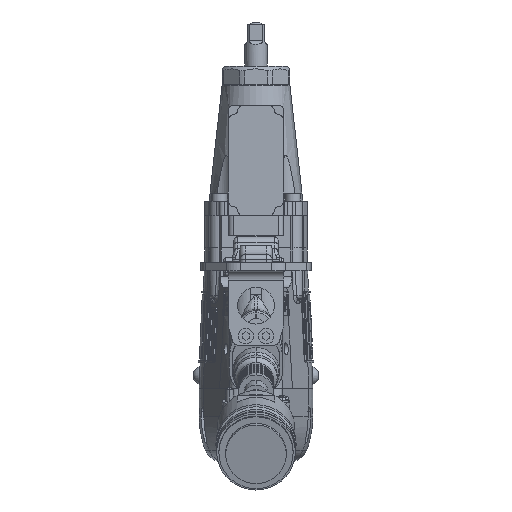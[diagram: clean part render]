
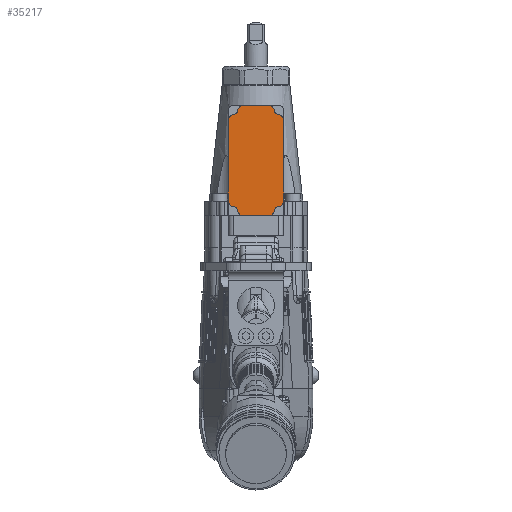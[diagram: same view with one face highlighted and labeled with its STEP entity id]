
A CAD part, front view. The second image highlights one B-rep face of the part: STEP entity #35217.
In plain terms, the highlighted planar face has unit normal (0, -1, 0).
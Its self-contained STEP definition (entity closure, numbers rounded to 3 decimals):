
#32300 = EDGE_LOOP ( 'NONE', ( #38063, #39475, #39418, #36424, #36278, #36152, #40690, #40745, #41193, #41208, #40416, #38423, #43613, #43628, #42598, #42507 ) ) ;
#35217 = ADVANCED_FACE ( 'NONE', ( #81259 ), #81258, .F. ) ;
#36152 = ORIENTED_EDGE ( 'NONE', *, *, #36270, .F. ) ;
#36270 = EDGE_CURVE ( 'NONE', #36346, #52724, #84166, .T. ) ;
#36278 = ORIENTED_EDGE ( 'NONE', *, *, #54132, .F. ) ;
#36283 = EDGE_CURVE ( 'NONE', #52803, #36423, #84155, .T. ) ;
#36346 = VERTEX_POINT ( 'NONE', #81343 ) ;
#36423 = VERTEX_POINT ( 'NONE', #81322 ) ;
#36424 = ORIENTED_EDGE ( 'NONE', *, *, #36283, .F. ) ;
#38063 = ORIENTED_EDGE ( 'NONE', *, *, #39524, .F. ) ;
#38423 = ORIENTED_EDGE ( 'NONE', *, *, #39906, .F. ) ;
#38523 = VERTEX_POINT ( 'NONE', #86031 ) ;
#39218 = VERTEX_POINT ( 'NONE', #86053 ) ;
#39228 = VERTEX_POINT ( 'NONE', #86052 ) ;
#39275 = EDGE_CURVE ( 'NONE', #36423, #39218, #86048, .T. ) ;
#39418 = ORIENTED_EDGE ( 'NONE', *, *, #39275, .F. ) ;
#39475 = ORIENTED_EDGE ( 'NONE', *, *, #39478, .F. ) ;
#39478 = EDGE_CURVE ( 'NONE', #39218, #38523, #86041, .T. ) ;
#39524 = EDGE_CURVE ( 'NONE', #38523, #39228, #86150, .T. ) ;
#39906 = EDGE_CURVE ( 'NONE', #40666, #40555, #86188, .T. ) ;
#40373 = VERTEX_POINT ( 'NONE', #86291 ) ;
#40416 = ORIENTED_EDGE ( 'NONE', *, *, #40535, .F. ) ;
#40535 = EDGE_CURVE ( 'NONE', #40555, #40373, #86266, .T. ) ;
#40555 = VERTEX_POINT ( 'NONE', #86258 ) ;
#40666 = VERTEX_POINT ( 'NONE', #86255 ) ;
#40690 = ORIENTED_EDGE ( 'NONE', *, *, #41567, .F. ) ;
#40699 = VERTEX_POINT ( 'NONE', #86253 ) ;
#40745 = ORIENTED_EDGE ( 'NONE', *, *, #41163, .F. ) ;
#41163 = EDGE_CURVE ( 'NONE', #44986, #40699, #86349, .T. ) ;
#41193 = ORIENTED_EDGE ( 'NONE', *, *, #46098, .F. ) ;
#41208 = ORIENTED_EDGE ( 'NONE', *, *, #41211, .F. ) ;
#41211 = EDGE_CURVE ( 'NONE', #40373, #44989, #86340, .T. ) ;
#41567 = EDGE_CURVE ( 'NONE', #40699, #36346, #86325, .T. ) ;
#42073 = VERTEX_POINT ( 'NONE', #86372 ) ;
#42405 = VERTEX_POINT ( 'NONE', #86455 ) ;
#42500 = EDGE_CURVE ( 'NONE', #39228, #42405, #86437, .T. ) ;
#42507 = ORIENTED_EDGE ( 'NONE', *, *, #42500, .F. ) ;
#42598 = ORIENTED_EDGE ( 'NONE', *, *, #42622, .F. ) ;
#42622 = EDGE_CURVE ( 'NONE', #42405, #43274, #86428, .T. ) ;
#43274 = VERTEX_POINT ( 'NONE', #86642 ) ;
#43592 = EDGE_CURVE ( 'NONE', #43274, #42073, #86623, .T. ) ;
#43613 = ORIENTED_EDGE ( 'NONE', *, *, #43911, .F. ) ;
#43628 = ORIENTED_EDGE ( 'NONE', *, *, #43592, .F. ) ;
#43911 = EDGE_CURVE ( 'NONE', #42073, #40666, #86810, .T. ) ;
#44986 = VERTEX_POINT ( 'NONE', #87167 ) ;
#44989 = VERTEX_POINT ( 'NONE', #87166 ) ;
#46098 = EDGE_CURVE ( 'NONE', #44989, #44986, #87265, .T. ) ;
#52724 = VERTEX_POINT ( 'NONE', #89180 ) ;
#52803 = VERTEX_POINT ( 'NONE', #89156 ) ;
#54132 = EDGE_CURVE ( 'NONE', #52724, #52803, #93383, .T. ) ;
#81254 = DIRECTION ( 'NONE',  ( 0., 0., 1. ) ) ;
#81255 = DIRECTION ( 'NONE',  ( 0., 1., 0. ) ) ;
#81256 = CARTESIAN_POINT ( 'NONE',  ( 41.7, -32.6, 12.5 ) ) ;
#81257 = AXIS2_PLACEMENT_3D ( 'NONE', #81256, #81255, #81254 ) ;
#81258 = PLANE ( 'NONE',  #81257 ) ;
#81259 = FACE_OUTER_BOUND ( 'NONE', #32300, .T. ) ;
#81322 = CARTESIAN_POINT ( 'NONE',  ( 44.19, -32.6, -12.273 ) ) ;
#81343 = CARTESIAN_POINT ( 'NONE',  ( 94.21, -32.6, -12.273 ) ) ;
#84150 = DIRECTION ( 'NONE',  ( 0., 0., -1. ) ) ;
#84152 = DIRECTION ( 'NONE',  ( 0., 1., 0. ) ) ;
#84153 = CARTESIAN_POINT ( 'NONE',  ( 47.177, -32.6, -12. ) ) ;
#84154 = AXIS2_PLACEMENT_3D ( 'NONE', #84153, #84152, #84150 ) ;
#84155 = CIRCLE ( 'NONE', #84154, 3. ) ;
#84161 = DIRECTION ( 'NONE',  ( 0., 0., -1. ) ) ;
#84163 = DIRECTION ( 'NONE',  ( 0., 1., 0. ) ) ;
#84164 = CARTESIAN_POINT ( 'NONE',  ( 91.223, -32.6, -12. ) ) ;
#84165 = AXIS2_PLACEMENT_3D ( 'NONE', #84164, #84163, #84161 ) ;
#84166 = CIRCLE ( 'NONE', #84165, 3. ) ;
#86031 = CARTESIAN_POINT ( 'NONE',  ( 39.2, -32.6, -7.023 ) ) ;
#86035 = DIRECTION ( 'NONE',  ( 0., 0., -1. ) ) ;
#86037 = DIRECTION ( 'NONE',  ( 0., 1., 0. ) ) ;
#86038 = CARTESIAN_POINT ( 'NONE',  ( 42.2, -32.6, -7.023 ) ) ;
#86040 = AXIS2_PLACEMENT_3D ( 'NONE', #86038, #86037, #86035 ) ;
#86041 = CIRCLE ( 'NONE', #86040, 3. ) ;
#86043 = DIRECTION ( 'NONE',  ( 0., 0., -1. ) ) ;
#86044 = DIRECTION ( 'NONE',  ( 0., -1., 0. ) ) ;
#86045 = CARTESIAN_POINT ( 'NONE',  ( 41.7, -32.6, -12.5 ) ) ;
#86046 = AXIS2_PLACEMENT_3D ( 'NONE', #86045, #86044, #86043 ) ;
#86048 = CIRCLE ( 'NONE', #86046, 2.5 ) ;
#86052 = CARTESIAN_POINT ( 'NONE',  ( 39.2, -32.6, 7.023 ) ) ;
#86053 = CARTESIAN_POINT ( 'NONE',  ( 41.927, -32.6, -10.01 ) ) ;
#86145 = DIRECTION ( 'NONE',  ( 0., 0., 1. ) ) ;
#86146 = VECTOR ( 'NONE', #86145, 1000. ) ;
#86148 = CARTESIAN_POINT ( 'NONE',  ( 39.2, -32.6, -12.5 ) ) ;
#86150 = LINE ( 'NONE', #86148, #86146 ) ;
#86182 = DIRECTION ( 'NONE',  ( 0., 0., -1. ) ) ;
#86183 = DIRECTION ( 'NONE',  ( 0., 1., 0. ) ) ;
#86185 = CARTESIAN_POINT ( 'NONE',  ( 91.223, -32.6, 12. ) ) ;
#86187 = AXIS2_PLACEMENT_3D ( 'NONE', #86185, #86183, #86182 ) ;
#86188 = CIRCLE ( 'NONE', #86187, 3. ) ;
#86253 = CARTESIAN_POINT ( 'NONE',  ( 96.473, -32.6, -10.01 ) ) ;
#86255 = CARTESIAN_POINT ( 'NONE',  ( 91.223, -32.6, 15. ) ) ;
#86258 = CARTESIAN_POINT ( 'NONE',  ( 94.21, -32.6, 12.273 ) ) ;
#86259 = DIRECTION ( 'NONE',  ( 0., 0., -1. ) ) ;
#86261 = DIRECTION ( 'NONE',  ( 0., -1., 0. ) ) ;
#86263 = CARTESIAN_POINT ( 'NONE',  ( 96.7, -32.6, 12.5 ) ) ;
#86265 = AXIS2_PLACEMENT_3D ( 'NONE', #86263, #86261, #86259 ) ;
#86266 = CIRCLE ( 'NONE', #86265, 2.5 ) ;
#86291 = CARTESIAN_POINT ( 'NONE',  ( 96.473, -32.6, 10.01 ) ) ;
#86321 = DIRECTION ( 'NONE',  ( 0., 0., -1. ) ) ;
#86322 = DIRECTION ( 'NONE',  ( 0., -1., 0. ) ) ;
#86323 = CARTESIAN_POINT ( 'NONE',  ( 96.7, -32.6, -12.5 ) ) ;
#86324 = AXIS2_PLACEMENT_3D ( 'NONE', #86323, #86322, #86321 ) ;
#86325 = CIRCLE ( 'NONE', #86324, 2.5 ) ;
#86333 = DIRECTION ( 'NONE',  ( 0., 0., -1. ) ) ;
#86335 = DIRECTION ( 'NONE',  ( 0., 1., 0. ) ) ;
#86337 = CARTESIAN_POINT ( 'NONE',  ( 96.2, -32.6, 7.023 ) ) ;
#86338 = AXIS2_PLACEMENT_3D ( 'NONE', #86337, #86335, #86333 ) ;
#86340 = CIRCLE ( 'NONE', #86338, 3. ) ;
#86343 = DIRECTION ( 'NONE',  ( 0., 0., -1. ) ) ;
#86344 = DIRECTION ( 'NONE',  ( 0., 1., 0. ) ) ;
#86345 = CARTESIAN_POINT ( 'NONE',  ( 96.2, -32.6, -7.023 ) ) ;
#86347 = AXIS2_PLACEMENT_3D ( 'NONE', #86345, #86344, #86343 ) ;
#86349 = CIRCLE ( 'NONE', #86347, 3. ) ;
#86372 = CARTESIAN_POINT ( 'NONE',  ( 47.177, -32.6, 15. ) ) ;
#86423 = DIRECTION ( 'NONE',  ( 0., 0., -1. ) ) ;
#86424 = DIRECTION ( 'NONE',  ( 0., -1., 0. ) ) ;
#86426 = CARTESIAN_POINT ( 'NONE',  ( 41.7, -32.6, 12.5 ) ) ;
#86427 = AXIS2_PLACEMENT_3D ( 'NONE', #86426, #86424, #86423 ) ;
#86428 = CIRCLE ( 'NONE', #86427, 2.5 ) ;
#86430 = DIRECTION ( 'NONE',  ( 0., 0., -1. ) ) ;
#86432 = DIRECTION ( 'NONE',  ( 0., 1., 0. ) ) ;
#86434 = CARTESIAN_POINT ( 'NONE',  ( 42.2, -32.6, 7.023 ) ) ;
#86435 = AXIS2_PLACEMENT_3D ( 'NONE', #86434, #86432, #86430 ) ;
#86437 = CIRCLE ( 'NONE', #86435, 3. ) ;
#86455 = CARTESIAN_POINT ( 'NONE',  ( 41.927, -32.6, 10.01 ) ) ;
#86621 = AXIS2_PLACEMENT_3D ( 'NONE', #86737, #86735, #86734 ) ;
#86623 = CIRCLE ( 'NONE', #86621, 3. ) ;
#86642 = CARTESIAN_POINT ( 'NONE',  ( 44.19, -32.6, 12.273 ) ) ;
#86734 = DIRECTION ( 'NONE',  ( 0., 0., -1. ) ) ;
#86735 = DIRECTION ( 'NONE',  ( 0., 1., 0. ) ) ;
#86737 = CARTESIAN_POINT ( 'NONE',  ( 47.177, -32.6, 12. ) ) ;
#86806 = DIRECTION ( 'NONE',  ( 1., 0., 0. ) ) ;
#86808 = VECTOR ( 'NONE', #86806, 1000. ) ;
#86809 = CARTESIAN_POINT ( 'NONE',  ( 41.7, -32.6, 15. ) ) ;
#86810 = LINE ( 'NONE', #86809, #86808 ) ;
#87166 = CARTESIAN_POINT ( 'NONE',  ( 99.2, -32.6, 7.023 ) ) ;
#87167 = CARTESIAN_POINT ( 'NONE',  ( 99.2, -32.6, -7.023 ) ) ;
#87261 = DIRECTION ( 'NONE',  ( 0., 0., -1. ) ) ;
#87262 = VECTOR ( 'NONE', #87261, 1000. ) ;
#87264 = CARTESIAN_POINT ( 'NONE',  ( 99.2, -32.6, -15. ) ) ;
#87265 = LINE ( 'NONE', #87264, #87262 ) ;
#89156 = CARTESIAN_POINT ( 'NONE',  ( 47.177, -32.6, -15. ) ) ;
#89180 = CARTESIAN_POINT ( 'NONE',  ( 91.223, -32.6, -15. ) ) ;
#93378 = DIRECTION ( 'NONE',  ( -1., 0., 0. ) ) ;
#93379 = VECTOR ( 'NONE', #93378, 1000. ) ;
#93381 = CARTESIAN_POINT ( 'NONE',  ( 41.7, -32.6, -15. ) ) ;
#93383 = LINE ( 'NONE', #93381, #93379 ) ;
